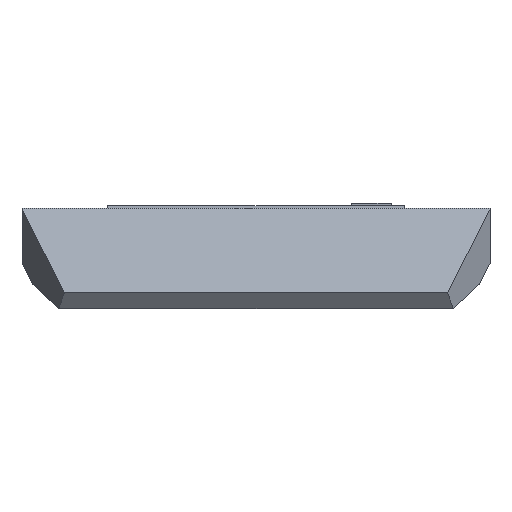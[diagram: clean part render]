
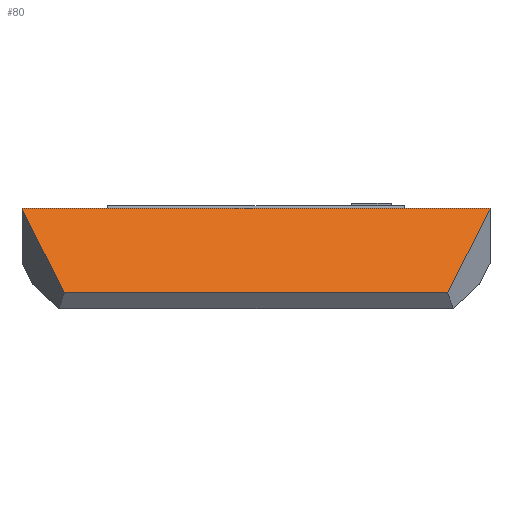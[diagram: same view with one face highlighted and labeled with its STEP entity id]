
A CAD part, front view. The second image highlights one B-rep face of the part: STEP entity #80.
In plain terms, the highlighted planar face has unit normal (0, -0.643, 0.766).
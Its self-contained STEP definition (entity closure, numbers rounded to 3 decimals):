
#80 = ADVANCED_FACE( '', ( #200 ), #201, .F. );
#200 = FACE_OUTER_BOUND( '', #366, .T. );
#201 = PLANE( '', #367 );
#366 = EDGE_LOOP( '', ( #545, #546, #547, #548, #549, #550 ) );
#367 = AXIS2_PLACEMENT_3D( '', #551, #552, #553 );
#545 = ORIENTED_EDGE( '', *, *, #994, .F. );
#546 = ORIENTED_EDGE( '', *, *, #987, .T. );
#547 = ORIENTED_EDGE( '', *, *, #995, .F. );
#548 = ORIENTED_EDGE( '', *, *, #996, .F. );
#549 = ORIENTED_EDGE( '', *, *, #997, .F. );
#550 = ORIENTED_EDGE( '', *, *, #998, .F. );
#551 = CARTESIAN_POINT( '', ( 65., -0.679, -0.57 ) );
#552 = DIRECTION( '', ( 0., 0.643, -0.766 ) );
#553 = DIRECTION( '', ( 0., 0.766, 0.643 ) );
#987 = EDGE_CURVE( '', #1164, #1176, #1178, .T. );
#994 = EDGE_CURVE( '', #1164, #1189, #1190, .T. );
#995 = EDGE_CURVE( '', #1191, #1176, #1192, .T. );
#996 = EDGE_CURVE( '', #1193, #1191, #1194, .T. );
#997 = EDGE_CURVE( '', #1195, #1193, #1196, .T. );
#998 = EDGE_CURVE( '', #1189, #1195, #1197, .T. );
#1164 = VERTEX_POINT( '', #1433 );
#1176 = VERTEX_POINT( '', #1451 );
#1178 = LINE( '', #1454, #1455 );
#1189 = VERTEX_POINT( '', #1470 );
#1190 = LINE( '', #1471, #1472 );
#1191 = VERTEX_POINT( '', #1473 );
#1192 = LINE( '', #1474, #1475 );
#1193 = VERTEX_POINT( '', #1476 );
#1194 = LINE( '', #1477, #1478 );
#1195 = VERTEX_POINT( '', #1479 );
#1196 = LINE( '', #1480, #1481 );
#1197 = LINE( '', #1482, #1483 );
#1433 = CARTESIAN_POINT( '', ( 56.742, -0.679, -0.57 ) );
#1451 = CARTESIAN_POINT( '', ( -56.742, -0.679, -0.57 ) );
#1454 = CARTESIAN_POINT( '', ( 65., -0.679, -0.57 ) );
#1455 = VECTOR( '', #1811, 1000. );
#1470 = CARTESIAN_POINT( '', ( 56.742, -1.05, -0.881 ) );
#1471 = CARTESIAN_POINT( '', ( 56.742, -0.679, -0.57 ) );
#1472 = VECTOR( '', #1816, 1000. );
#1473 = CARTESIAN_POINT( '', ( -56.742, -1.05, -0.881 ) );
#1474 = CARTESIAN_POINT( '', ( -56.742, -0.679, -0.57 ) );
#1475 = VECTOR( '', #1817, 1000. );
#1476 = CARTESIAN_POINT( '', ( -46.448, -25.083, -21.047 ) );
#1477 = CARTESIAN_POINT( '', ( -45.052, -28.341, -23.781 ) );
#1478 = VECTOR( '', #1818, 1000. );
#1479 = CARTESIAN_POINT( '', ( 46.448, -25.083, -21.047 ) );
#1480 = CARTESIAN_POINT( '', ( 65., -25.083, -21.047 ) );
#1481 = VECTOR( '', #1819, 1000. );
#1482 = CARTESIAN_POINT( '', ( 57.688, 1.159, 0.972 ) );
#1483 = VECTOR( '', #1820, 1000. );
#1811 = DIRECTION( '', ( -1., 0., 0. ) );
#1816 = DIRECTION( '', ( 0., -0.766, -0.643 ) );
#1817 = DIRECTION( '', ( 0., 0.766, 0.643 ) );
#1818 = DIRECTION( '', ( -0.312, 0.728, 0.611 ) );
#1819 = DIRECTION( '', ( -1., 0., 0. ) );
#1820 = DIRECTION( '', ( -0.312, -0.728, -0.611 ) );
